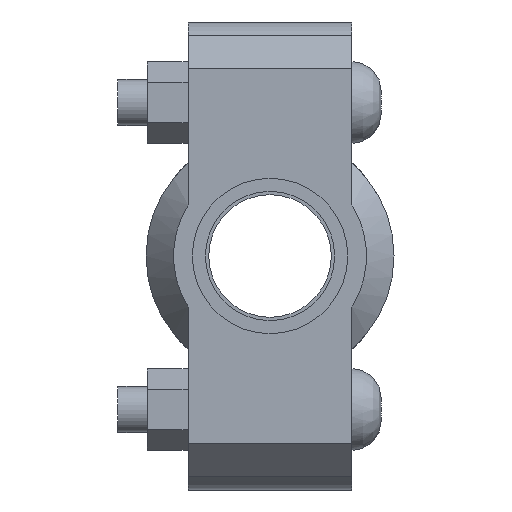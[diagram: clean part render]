
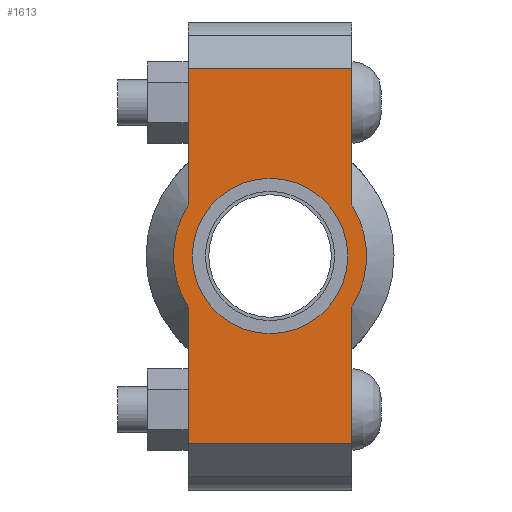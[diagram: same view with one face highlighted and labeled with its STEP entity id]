
A CAD part, left-side view. The second image highlights one B-rep face of the part: STEP entity #1613.
In plain terms, the highlighted planar face has unit normal (-1, 0, 0) as drawn and (0, 0, 1) by its records, which use the part's own axes.
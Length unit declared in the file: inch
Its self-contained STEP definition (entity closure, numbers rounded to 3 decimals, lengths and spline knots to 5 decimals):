
#168=LINE('',#2789,#265);
#183=LINE('',#2848,#280);
#191=LINE('',#2878,#288);
#193=LINE('',#2881,#290);
#194=LINE('',#2886,#291);
#195=LINE('',#2887,#292);
#265=VECTOR('',#2269,0.3937);
#280=VECTOR('',#2304,0.3937);
#288=VECTOR('',#2324,0.3937);
#290=VECTOR('',#2328,0.3937);
#291=VECTOR('',#2333,0.3937);
#292=VECTOR('',#2334,0.3937);
#356=FACE_BOUND('',#533,.T.);
#424=FACE_OUTER_BOUND('',#532,.T.);
#532=EDGE_LOOP('',(#1314,#1315,#1316,#1317,#1318,#1319,#1320,#1321));
#533=EDGE_LOOP('',(#1322));
#615=CIRCLE('',#1841,0.83);
#639=CIRCLE('',#1893,1.031);
#640=CIRCLE('',#1894,1.031);
#711=VERTEX_POINT('',#2615);
#752=VERTEX_POINT('',#2786);
#753=VERTEX_POINT('',#2788);
#774=VERTEX_POINT('',#2843);
#775=VERTEX_POINT('',#2847);
#784=VERTEX_POINT('',#2873);
#785=VERTEX_POINT('',#2877);
#786=VERTEX_POINT('',#2883);
#787=VERTEX_POINT('',#2885);
#875=EDGE_CURVE('',#711,#711,#615,.T.);
#932=EDGE_CURVE('',#753,#752,#168,.T.);
#957=EDGE_CURVE('',#775,#774,#183,.T.);
#970=EDGE_CURVE('',#785,#784,#191,.T.);
#972=EDGE_CURVE('',#785,#752,#193,.T.);
#973=EDGE_CURVE('',#784,#786,#639,.T.);
#974=EDGE_CURVE('',#786,#787,#194,.T.);
#975=EDGE_CURVE('',#775,#787,#195,.T.);
#976=EDGE_CURVE('',#774,#753,#640,.T.);
#1314=ORIENTED_EDGE('',*,*,#972,.F.);
#1315=ORIENTED_EDGE('',*,*,#970,.T.);
#1316=ORIENTED_EDGE('',*,*,#973,.T.);
#1317=ORIENTED_EDGE('',*,*,#974,.T.);
#1318=ORIENTED_EDGE('',*,*,#975,.F.);
#1319=ORIENTED_EDGE('',*,*,#957,.T.);
#1320=ORIENTED_EDGE('',*,*,#976,.T.);
#1321=ORIENTED_EDGE('',*,*,#932,.T.);
#1322=ORIENTED_EDGE('',*,*,#875,.T.);
#1453=PLANE('',#1892);
#1613=ADVANCED_FACE('',(#424,#356),#1453,.T.);
#1841=AXIS2_PLACEMENT_3D('',#2617,#2159,#2160);
#1892=AXIS2_PLACEMENT_3D('',#2882,#2329,#2330);
#1893=AXIS2_PLACEMENT_3D('',#2884,#2331,#2332);
#1894=AXIS2_PLACEMENT_3D('',#2888,#2335,#2336);
#2159=DIRECTION('center_axis',(0.,0.,-1.));
#2160=DIRECTION('ref_axis',(-1.,0.,0.));
#2269=DIRECTION('',(-1.,0.,0.));
#2304=DIRECTION('',(-1.,0.,0.));
#2324=DIRECTION('',(1.,0.,0.));
#2328=DIRECTION('',(0.,1.,0.));
#2329=DIRECTION('center_axis',(0.,0.,1.));
#2330=DIRECTION('ref_axis',(1.,0.,0.));
#2331=DIRECTION('center_axis',(0.,0.,1.));
#2332=DIRECTION('ref_axis',(-1.,0.,0.));
#2333=DIRECTION('',(1.,0.,0.));
#2334=DIRECTION('',(0.,-1.,0.));
#2335=DIRECTION('center_axis',(0.,0.,1.));
#2336=DIRECTION('ref_axis',(-1.,0.,0.));
#2615=CARTESIAN_POINT('',(0.83,0.,0.94));
#2617=CARTESIAN_POINT('Origin',(0.,0.,0.94));
#2786=CARTESIAN_POINT('',(-2.,0.875,0.94));
#2788=CARTESIAN_POINT('',(-0.54529,0.875,0.94));
#2789=CARTESIAN_POINT('',(2.5,0.875,0.94));
#2843=CARTESIAN_POINT('',(0.54529,0.875,0.94));
#2847=CARTESIAN_POINT('',(2.,0.875,0.94));
#2848=CARTESIAN_POINT('',(2.5,0.875,0.94));
#2873=CARTESIAN_POINT('',(-0.54529,-0.875,0.94));
#2877=CARTESIAN_POINT('',(-2.,-0.875,0.94));
#2878=CARTESIAN_POINT('',(-2.5,-0.875,0.94));
#2881=CARTESIAN_POINT('',(-2.,0.4375,0.94));
#2882=CARTESIAN_POINT('Origin',(0.,0.,
0.94));
#2883=CARTESIAN_POINT('',(0.54529,-0.875,0.94));
#2884=CARTESIAN_POINT('Origin',(0.,0.,0.94));
#2885=CARTESIAN_POINT('',(2.,-0.875,0.94));
#2886=CARTESIAN_POINT('',(-2.5,-0.875,0.94));
#2887=CARTESIAN_POINT('',(2.,-0.4375,0.94));
#2888=CARTESIAN_POINT('Origin',(0.,0.,0.94));
